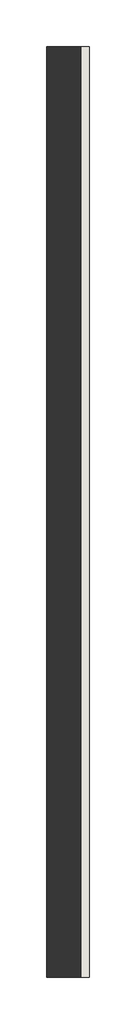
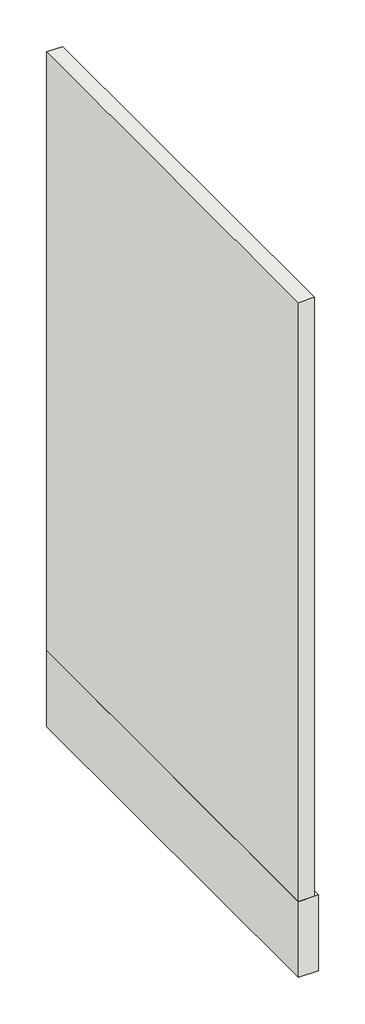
# One storey: 2 walls.
"""IFC4 building model written with IfcOpenShell, lengths in millimetres."""

from ifc_helpers import new_model, si_unit, frame, origin, place, context, project, spatial, polyline, outline, extrude, faceted_brep, element, save

model = new_model("IFC4")

# Units and contexts
model_context = context("Model", 3, world=origin())
ifc_project = project(units=[si_unit("LENGTHUNIT", "METRE", prefix="MILLI")], contexts=[model_context])

# Site, building, storey
site = spatial("IfcSite", under=ifc_project)
building = spatial("IfcBuilding", under=site)
storey = spatial("IfcBuildingStorey", under=building, Name="标高 1", Elevation=0.0)

# Walls
placement = place(None, origin())
element("IfcWall", 1, ObjectType="叠层墙下侧", at=placement, inside=storey, context=model_context, shape_type="Brep", body=[
    faceted_brep([(-1324.6706307, 4440.7010498, 0.0), (-1324.6706307, -459.2989502, 0.0), (-1324.6706307, -459.2989502, 900.0), (-1324.6706307, 4440.7010498, 900.0), (-1099.6706307, 4440.7010498, 0.0), (-1099.6706307, 4440.7010498, 900.0), (-1099.6706307, -459.2989502, 900.0), (-1099.6706307, -459.2989502, 0.0), (-1144.6706307, -459.2989502, 900.0), (-1144.6706307, 4440.7010498, 900.0)], [[[0, 1, 2, 3]], [[4, 5, 6, 7]], [[1, 0, 4, 7]], [[2, 1, 7, 6, 8]], [[3, 2, 8, 6, 5, 9]], [[0, 3, 9, 5, 4]]]),
])
element("IfcWall", 2, ObjectType="叠层墙上侧", at=placement, inside=storey, context=model_context, shape_type="SweptSolid", body=[
    extrude(outline(polyline([(-1324.6706307, -459.2989502), (-1324.6706307, 4440.7010498), (-1144.6706307, 4440.7010498), (-1144.6706307, -459.2989502), (-1324.6706307, -459.2989502)])), frame((0.0, 0.0, 900.0), z_axis=(0.0, 0.0, 1.0), x_axis=(1.0, 0.0, 0.0)), (0.0, 0.0, 1.0), 7100.0),
])

save(model, "model.ifc")
